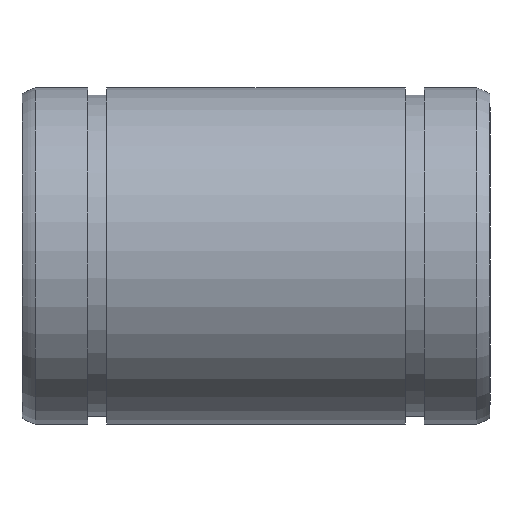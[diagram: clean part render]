
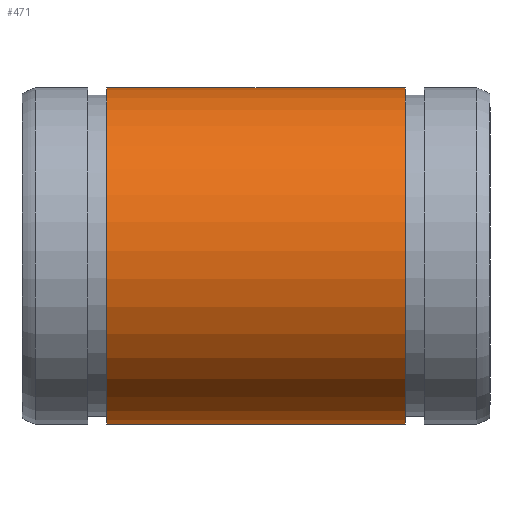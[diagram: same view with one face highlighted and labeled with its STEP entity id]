
A CAD part, front view. The second image highlights one B-rep face of the part: STEP entity #471.
In plain terms, the highlighted cylindrical face has radius 11.5 mm (diameter 23 mm), a partial arc.
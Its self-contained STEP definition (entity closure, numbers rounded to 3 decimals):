
#90=CARTESIAN_POINT('',(5.8,0.75,-11.476));
#91=VERTEX_POINT('',#90);
#98=CARTESIAN_POINT('',(26.2,0.75,-11.476));
#99=VERTEX_POINT('',#98);
#100=CARTESIAN_POINT('',(26.2,0.75,-11.476));
#101=DIRECTION('',(-1.0,0.0,0.0));
#102=VECTOR('',#101,20.4);
#103=LINE('',#100,#102);
#104=EDGE_CURVE('',#99,#91,#103,.T.);
#327=CARTESIAN_POINT('',(26.2,-0.75,-11.476));
#328=VERTEX_POINT('',#327);
#335=CARTESIAN_POINT('',(5.8,-0.75,-11.476));
#336=VERTEX_POINT('',#335);
#337=CARTESIAN_POINT('',(5.8,-0.75,-11.476));
#338=DIRECTION('',(1.0,0.0,0.0));
#339=VECTOR('',#338,20.4);
#340=LINE('',#337,#339);
#341=EDGE_CURVE('',#336,#328,#340,.T.);
#442=CARTESIAN_POINT('',(5.8,0.0,0.));
#443=DIRECTION('',(-1.0,0.0,0.0));
#444=DIRECTION('',(0.0,0.0,1.0));
#445=AXIS2_PLACEMENT_3D('',#442,#443,#444);
#446=CIRCLE('',#445,11.5);
#447=EDGE_CURVE('',#336,#91,#446,.T.);
#454=CARTESIAN_POINT('',(16.,0.0,0.));
#455=DIRECTION('',(-1.0,0.0,0.0));
#456=DIRECTION('',(0.0,0.0,1.0));
#457=AXIS2_PLACEMENT_3D('',#454,#455,#456);
#458=CYLINDRICAL_SURFACE('',#457,11.5);
#459=ORIENTED_EDGE('',*,*,#341,.T.);
#460=CARTESIAN_POINT('',(26.2,0.0,0.));
#461=DIRECTION('',(-1.0,0.0,0.0));
#462=DIRECTION('',(0.0,0.0,1.0));
#463=AXIS2_PLACEMENT_3D('',#460,#461,#462);
#464=CIRCLE('',#463,11.5);
#465=EDGE_CURVE('',#328,#99,#464,.T.);
#466=ORIENTED_EDGE('',*,*,#465,.T.);
#467=ORIENTED_EDGE('',*,*,#104,.T.);
#468=ORIENTED_EDGE('',*,*,#447,.F.);
#469=EDGE_LOOP('',(#459,#466,#467,#468));
#470=FACE_OUTER_BOUND('',#469,.T.);
#471=ADVANCED_FACE('',(#470),#458,.T.);
